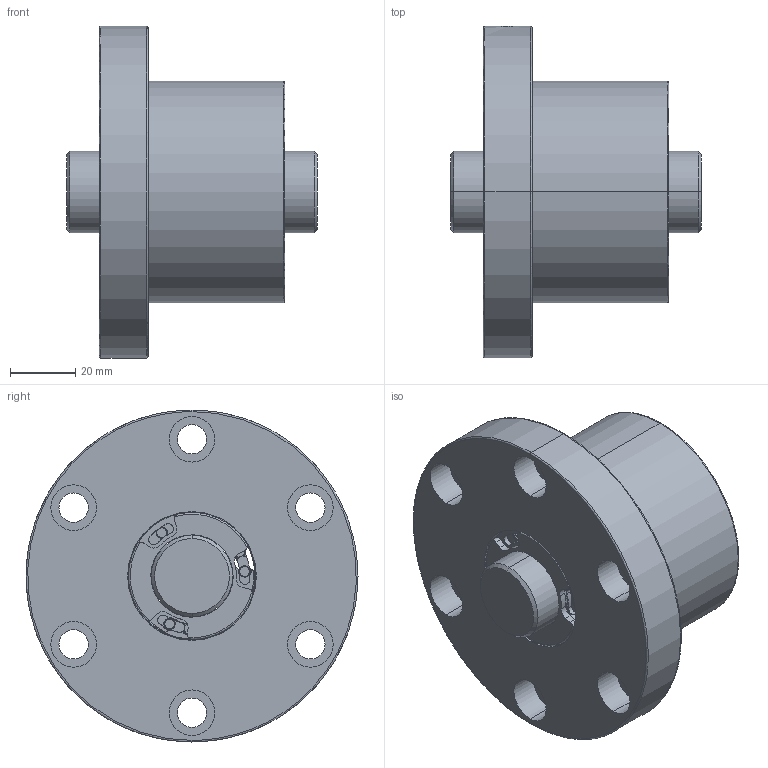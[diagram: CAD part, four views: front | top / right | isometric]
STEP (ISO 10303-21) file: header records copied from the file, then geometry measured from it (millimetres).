
FILE_DESCRIPTION (( 'STEP AP203' ), '1' );
FILE_NAME ('SFVSR02510C1N-C.STEP', '2020-06-17T05:11:01', ( '' ), ( '' ), 'SwSTEP 2.0', 'SolidWorks 2013', '' );
FILE_SCHEMA (( 'CONFIG_CONTROL_DESIGN' ));
Length unit declared in the file: millimetre
Products named in the file (1): SFVSR02510C1N-C
Bounding box: 77 x 102 x 102 mm (x, y, z)
Volume: 268170.2 mm3; surface area: 46585.2 mm2
Topology: 2 solids, 2 shells, 251 faces, 604 edges, 388 vertices
Faces by surface type: cylinder 144, plane 77, cone 16, bspline 14
Entity records: 7980 total; most frequent: CARTESIAN_POINT 1787, DIRECTION 1426, ORIENTED_EDGE 1208, AXIS2_PLACEMENT_3D 612, EDGE_CURVE 604, VERTEX_POINT 388, CIRCLE 374, EDGE_LOOP 296
